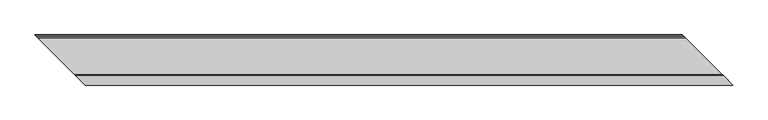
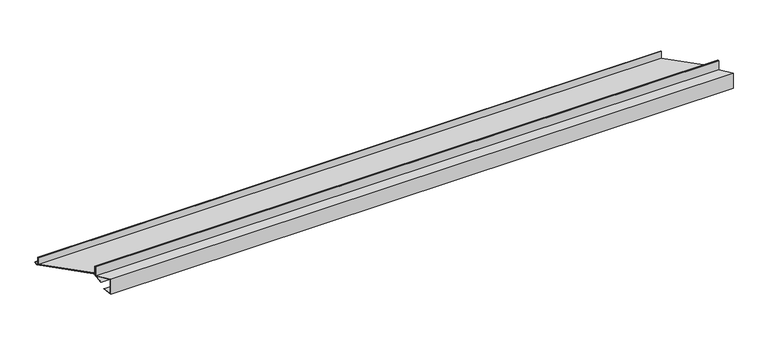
"""IFC4 building model written with IfcOpenShell, lengths in millimetres: proxy geometry, АК1_1 Примыкание к фундаментной балке : АК1_1 Примыкание к фундаментной балке."""

from ifc_helpers import new_model, si_unit, origin, place, context, project, spatial, faceted_brep, source, transform, mapped, element, save


def generic_models_ac934b32(model_context):
    return source(origin(), model_context, "Body", "Brep", [
        faceted_brep([(-116.5, 116.5, 9.0), (-120.7449534, 120.7449534, 17.660254), (1879.2550466, 120.7449534, 17.660254), (1883.5, 116.5, 9.0), (-1.5, 1.5, 9.0), (1998.5, 1.5, 9.0), (0.0, 0.0, 6.4019238), (2000.0, 0.0, 6.4019238), (2013.5, -13.5, -16.9807621), (13.5, -13.5, -16.9807621), (14.3660254, -14.3660254, -16.4807621), (2014.3660254, -14.3660254, -16.4807621), (-0.9226497, 0.9226497, 10.0), (0.0, 0.0, 8.4019238), (2000.0, 0.0, 8.4019238), (1999.0773503, 0.9226497, 10.0), (-115.9226497, 115.9226497, 10.0), (1884.0773503, 115.9226497, 10.0), (-119.8842356, 119.8842356, 18.0821477), (1880.1157644, 119.8842356, 18.0821477)], [[[0, 1, 2, 3]], [[4, 0, 3, 5]], [[6, 4, 5, 7, 8, 9]], [[10, 9, 8, 11]], [[12, 13, 10, 11, 14, 15]], [[16, 12, 15, 17]], [[18, 16, 17, 19]], [[1, 18, 19, 2]], [[6, 13, 12, 16, 18, 1, 0, 4]], [[13, 6, 9, 10]], [[14, 7, 5, 3, 2, 19, 17, 15]], [[7, 14, 11, 8]]]),
        faceted_brep([(4.5, -4.5, 33.6294353), (4.5, -4.5, 3.6294353), (2004.5, -4.5, 3.6294353), (2004.5, -4.5, 33.6294353), (3.5, -3.5, 33.6294353), (2003.5, -3.5, 33.6294353), (3.5, -3.5, 2.7903356), (2003.5, -3.5, 2.7903356), (33.0442326, -33.0442326, -2.4191097), (2033.0442326, -33.0442326, -2.4191097), (33.0442326, -33.0442326, -49.1657965), (2033.0442326, -33.0442326, -49.1657965), (20.6092037, -20.6092037, -36.7307676), (2020.6092037, -20.6092037, -36.7307676), (19.902097, -19.902097, -37.4378744), (2019.902097, -19.902097, -37.4378744), (34.0442326, -34.0442326, -51.58001), (2034.0442326, -34.0442326, -51.58001), (34.0442326, -34.0442326, -1.58001), (2034.0442326, -34.0442326, -1.58001)], [[[0, 1, 2, 3]], [[4, 0, 3, 5]], [[6, 4, 5, 7]], [[8, 6, 7, 9]], [[10, 8, 9, 11]], [[12, 10, 11, 13]], [[14, 12, 13, 15]], [[16, 14, 15, 17]], [[18, 16, 17, 19]], [[1, 18, 19, 2]], [[1, 0, 4, 6, 8, 10, 12, 14, 16, 18]], [[3, 2, 19, 17, 15, 13, 11, 9, 7, 5]]]),
        faceted_brep([(3.5, -3.5, 35.0), (3.5, -3.5, 10.0), (2003.5, -3.5, 10.0), (2003.5, -3.5, 35.0), (1.5, -1.5, 35.0), (2001.5, -1.5, 35.0), (1.5, -1.5, 12.0), (2001.5, -1.5, 12.0), (-112.5, 112.5, 12.0), (0.0, 0.0, 12.0), (2000.0, 0.0, 12.0), (1887.5, 112.5, 12.0), (-112.5, 112.5, 35.0), (1887.5, 112.5, 35.0), (-114.5, 114.5, 35.0), (1885.5, 114.5, 35.0), (-114.5, 114.5, 10.0), (1885.5, 114.5, 10.0), (0.0, 0.0, 10.0), (2000.0, 0.0, 10.0)], [[[0, 1, 2, 3]], [[4, 0, 3, 5]], [[6, 4, 5, 7]], [[8, 9, 6, 7, 10, 11]], [[12, 8, 11, 13]], [[14, 12, 13, 15]], [[16, 14, 15, 17]], [[18, 16, 17, 19, 2, 1]], [[9, 18, 1, 0, 4, 6]], [[19, 10, 7, 5, 3, 2]], [[18, 9, 8, 12, 14, 16]], [[10, 19, 17, 15, 13, 11]]]),
    ])


if __name__ == "__main__":
    model = new_model("IFC4")
    model_context = context("Model", 3, world=origin())
    ifc_project = project(units=[si_unit("LENGTHUNIT", "METRE", prefix="MILLI")], contexts=[model_context])
    site = spatial("IfcSite", under=ifc_project)
    building = spatial("IfcBuilding", under=site)
    placement = place(None, origin())
    generic_models_shape = generic_models_ac934b32(model_context)
    element("IfcBuildingElementProxy", 1, Name="АК1_1 Примыкание к фундаментной балке : АК1_1 Примыкание к фундаментной балке", ObjectType="АК1_1 Примыкание к фундаментной балке : АК1_1 Примыкание к фундаментной балке", at=placement, inside=building, context=model_context, shape_type="MappedRepresentation", body=[
        mapped(generic_models_shape, transform((0.0, 0.0, 0.0), x_axis=(1.0, 0.0, 0.0), y_axis=(0.0, 1.0, 0.0), z_axis=(0.0, 0.0, 1.0))),
    ])
    save(model, "model.ifc")
